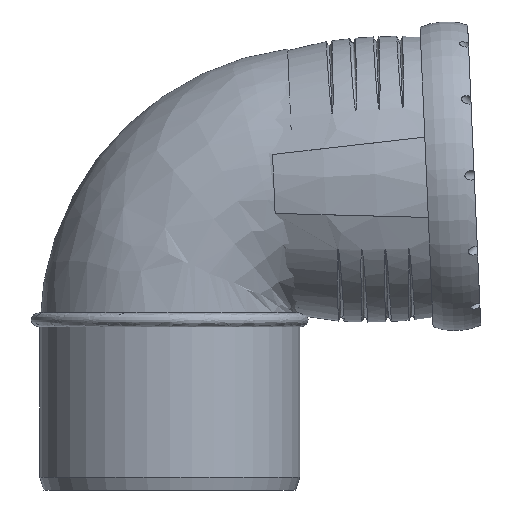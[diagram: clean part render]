
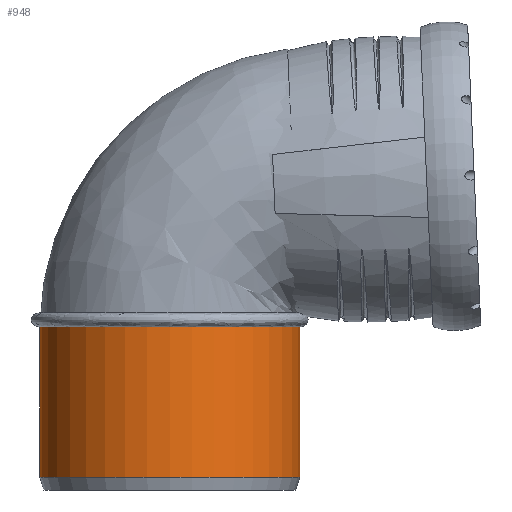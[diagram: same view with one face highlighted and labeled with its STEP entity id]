
A CAD part, front view. The second image highlights one B-rep face of the part: STEP entity #948.
In plain terms, the highlighted cylindrical face has radius 55.1 mm (diameter 110.2 mm), a full revolution.
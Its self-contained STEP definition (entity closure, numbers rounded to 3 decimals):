
#26=FACE_BOUND('',#158,.T.);
#54=CYLINDRICAL_SURFACE('',#1024,55.1);
#104=FACE_OUTER_BOUND('',#157,.T.);
#157=EDGE_LOOP('',(#647,#648,#649));
#158=EDGE_LOOP('',(#650));
#230=CIRCLE('',#1006,55.1);
#231=CIRCLE('',#1007,55.1);
#236=CIRCLE('',#1018,55.1);
#240=CIRCLE('',#1025,55.1);
#368=VERTEX_POINT('',#1554);
#369=VERTEX_POINT('',#1556);
#374=VERTEX_POINT('',#1641);
#380=VERTEX_POINT('',#1727);
#469=EDGE_CURVE('',#369,#368,#230,.T.);
#475=EDGE_CURVE('',#368,#374,#231,.T.);
#486=EDGE_CURVE('',#374,#369,#236,.T.);
#490=EDGE_CURVE('',#380,#380,#240,.T.);
#647=ORIENTED_EDGE('',*,*,#486,.T.);
#648=ORIENTED_EDGE('',*,*,#469,.T.);
#649=ORIENTED_EDGE('',*,*,#475,.T.);
#650=ORIENTED_EDGE('',*,*,#490,.F.);
#948=ADVANCED_FACE('',(#104,#26),#54,.T.);
#1006=AXIS2_PLACEMENT_3D('',#1557,#1111,#1112);
#1007=AXIS2_PLACEMENT_3D('',#1649,#1113,#1114);
#1018=AXIS2_PLACEMENT_3D('',#1719,#1135,#1136);
#1024=AXIS2_PLACEMENT_3D('',#1726,#1147,#1148);
#1025=AXIS2_PLACEMENT_3D('',#1728,#1149,#1150);
#1111=DIRECTION('center_axis',(0.,0.,-1.));
#1112=DIRECTION('ref_axis',(1.,0.,0.));
#1113=DIRECTION('center_axis',(0.,0.,-1.));
#1114=DIRECTION('ref_axis',(1.,0.,0.));
#1135=DIRECTION('center_axis',(0.,0.,-1.));
#1136=DIRECTION('ref_axis',(1.,0.,0.));
#1147=DIRECTION('center_axis',(0.,0.,-1.));
#1148=DIRECTION('ref_axis',(0.,1.,0.));
#1149=DIRECTION('center_axis',(0.,0.,-1.));
#1150=DIRECTION('ref_axis',(1.,0.,0.));
#1554=CARTESIAN_POINT('',(-55.1,0.,69.1));
#1556=CARTESIAN_POINT('',(0.,-55.1,69.1));
#1557=CARTESIAN_POINT('Origin',(0.,0.,69.1));
#1641=CARTESIAN_POINT('',(0.,55.1,69.1));
#1649=CARTESIAN_POINT('Origin',(0.,0.,69.1));
#1719=CARTESIAN_POINT('Origin',(0.,0.,69.1));
#1726=CARTESIAN_POINT('Origin',(0.,0.,37.3));
#1727=CARTESIAN_POINT('',(0.,55.1,5.5));
#1728=CARTESIAN_POINT('Origin',(0.,0.,5.5));
